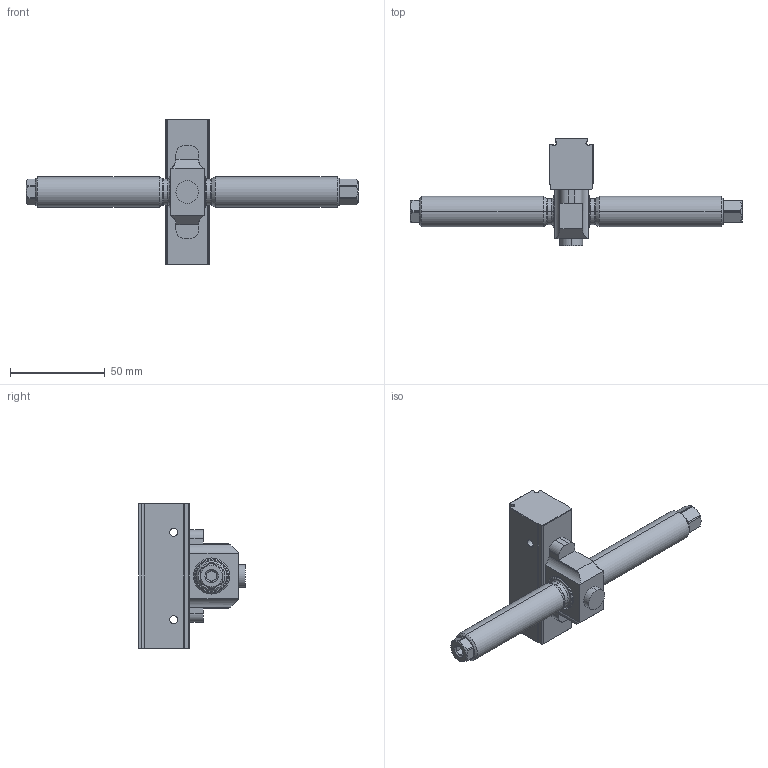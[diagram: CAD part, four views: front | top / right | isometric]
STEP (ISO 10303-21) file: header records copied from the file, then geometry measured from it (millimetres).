
FILE_DESCRIPTION (( 'STEP AP214' ), '1' );
FILE_NAME ('47160-TG17.STEP', '2023-02-10T12:50:47', ( '' ), ( '' ), 'SwSTEP 2.0', 'SolidWorks 2021', '' );
FILE_SCHEMA (( 'AUTOMOTIVE_DESIGN' ));
Length unit declared in the file: millimetre
Products named in the file (1): 47160-TG17
Bounding box: 175 x 56.4 x 76.6 mm (x, y, z)
Volume: 90711.3 mm3; surface area: 22197.6 mm2
Topology: 2 solids, 2 shells, 165 faces, 404 edges, 251 vertices
Faces by surface type: plane 80, cylinder 47, cone 30, torus 8
Entity records: 6903 total; most frequent: CARTESIAN_POINT 1117, DIRECTION 835, ORIENTED_EDGE 808, EDGE_CURVE 404, AXIS2_PLACEMENT_3D 301, VERTEX_POINT 251, VECTOR 233, LINE 233
